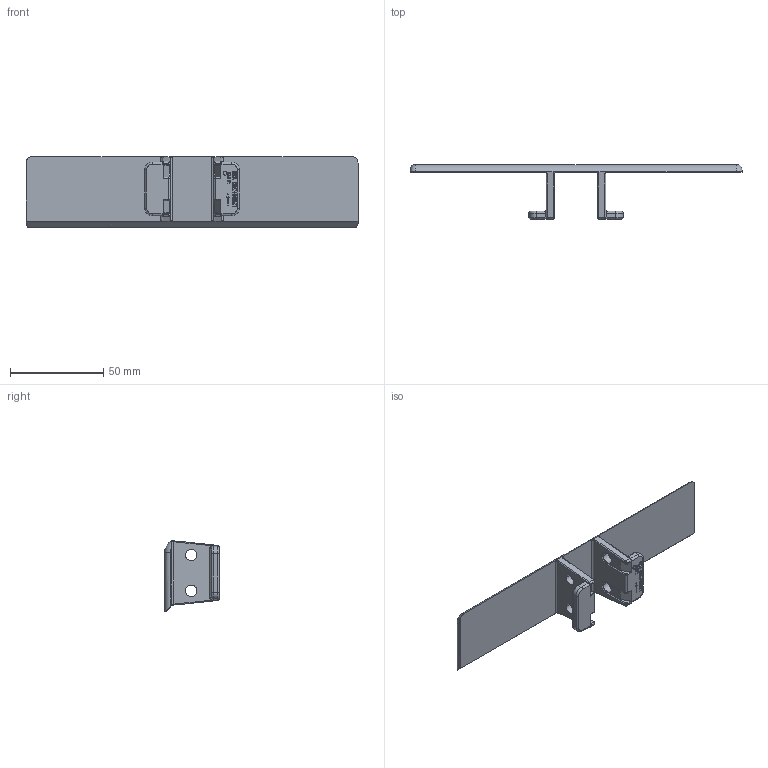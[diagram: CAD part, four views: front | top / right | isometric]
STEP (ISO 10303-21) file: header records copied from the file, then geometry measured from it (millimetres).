
FILE_DESCRIPTION((''),'2;1');
FILE_NAME('P1210','2015-12-23T',('bhe'),(''),'CREO PARAMETRIC BY PTC INC, 2015290','CREO PARAMETRIC BY PTC INC, 2015290','');
FILE_SCHEMA(('CONFIG_CONTROL_DESIGN'));
Length unit declared in the file: millimetre
Products named in the file (1): P1210
Bounding box: 177.8 x 29.4 x 37.91 mm (x, y, z)
Volume: 32618.2 mm3; surface area: 18948.7 mm2
Topology: 1 solids, 1 shells, 618 faces, 1670 edges, 1079 vertices
Faces by surface type: plane 466, cylinder 84, bspline 52, torus 16
Entity records: 22118 total; most frequent: CARTESIAN_POINT 6837, ORIENTED_EDGE 3338, DIRECTION 2868, EDGE_CURVE 1669, VECTOR 1380, LINE 1380, VERTEX_POINT 1079, AXIS2_PLACEMENT_3D 744
